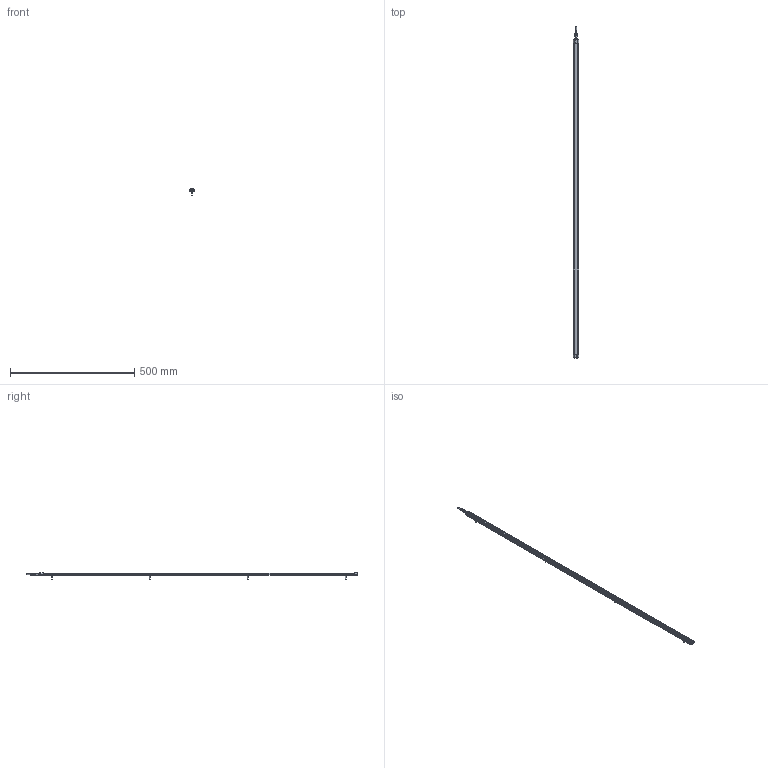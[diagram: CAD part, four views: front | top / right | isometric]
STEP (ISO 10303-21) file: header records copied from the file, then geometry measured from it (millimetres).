
FILE_DESCRIPTION (( 'STEP AP214' ), '1' );
FILE_NAME ('ILGA-B-K2-1280mm.STEP', '2026-04-24T22:55:58', ( '' ), ( '' ), 'SwSTEP 2.0', 'SolidWorks 2025', '' );
FILE_SCHEMA (( 'AUTOMOTIVE_DESIGN' ));
Length unit declared in the file: millimetre
Products named in the file (1): ILGA-B-K2-1280mm
Bounding box: 22.4 x 1334.5 x 25.7 mm (x, y, z)
Surface area: 176602.3 mm2 (no closed solid volume)
Topology: 0 solids, 17 shells, 975 faces, 2532 edges, 1571 vertices
Faces by surface type: cylinder 403, plane 364, cone 86, bspline 56, torus 50, sphere 16
Entity records: 42888 total; most frequent: CARTESIAN_POINT 8692, ORIENTED_EDGE 4945, DIRECTION 4896, EDGE_CURVE 2480, AXIS2_PLACEMENT_3D 1879, VERTEX_POINT 1571, LINE 1138, VECTOR 1138
